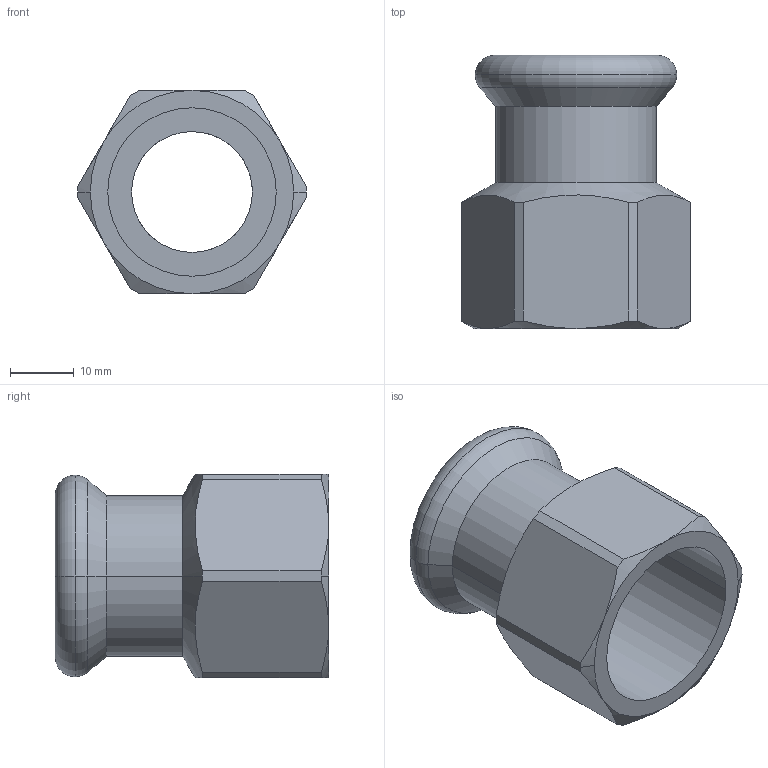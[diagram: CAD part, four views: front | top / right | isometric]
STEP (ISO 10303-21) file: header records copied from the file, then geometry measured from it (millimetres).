
FILE_DESCRIPTION(('CoCreate Modeling STEP Export'),'2;1');
FILE_NAME('C1402 22xRp3-4.stp','2014-11-06T17:01:28',(''),(''),'CoCreate Modeling STEP processor for AP214 (Solid Model)','CoCreate Modeling 17.00A 17-Jun-2010 (C) Parametric Technology GmbH','');
FILE_SCHEMA(('AUTOMOTIVE_DESIGN { 1 0 10303 214 1 1 1 1 }'));
Length unit declared in the file: millimetre
Products named in the file (2): C1402_22xRp¾
Assembly tree (1 placements, depth 2):
  C1402_22xRp¾
    C1402_22xRp¾
Bounding box: 36 x 43 x 32 mm (x, y, z)
Volume: 11579.6 mm3; surface area: 8697.2 mm2
Topology: 1 solids, 1 shells, 41 faces, 98 edges, 62 vertices
Faces by surface type: plane 17, cone 12, cylinder 8, torus 4
Entity records: 2130 total; most frequent: CARTESIAN_POINT 1276, ORIENTED_EDGE 196, DIRECTION 114, EDGE_CURVE 98, VERTEX_POINT 62, EDGE_LOOP 46, AXIS2_PLACEMENT_3D 44, FACE_OUTER_BOUND 41
